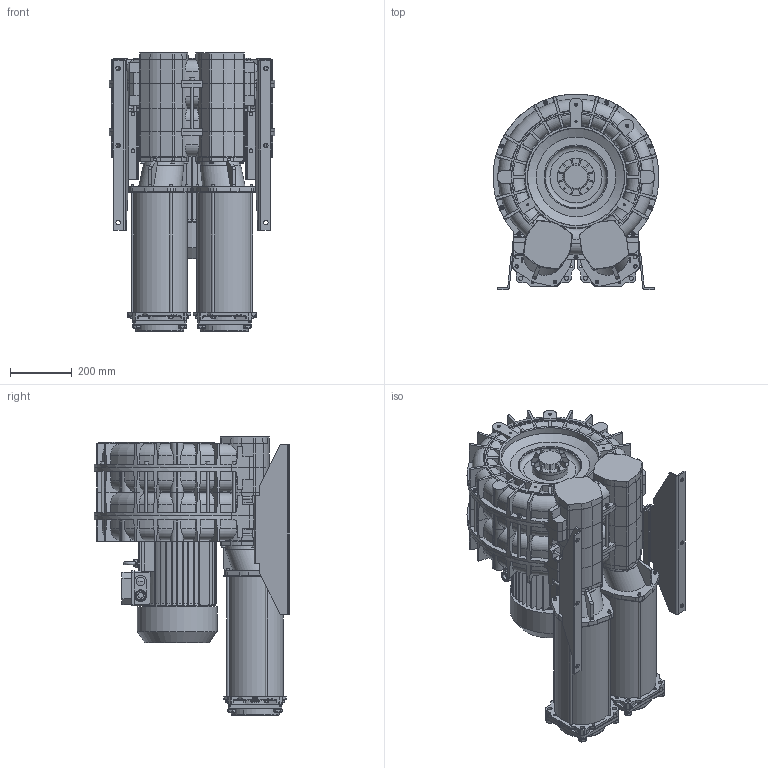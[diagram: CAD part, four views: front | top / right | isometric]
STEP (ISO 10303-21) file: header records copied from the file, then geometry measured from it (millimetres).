
FILE_DESCRIPTION (( 'STEP AP203' ), '1' );
FILE_NAME ('STP-L_e_10_TS_MOR_IE3WR_132_11.0kW-3_24-00.step', '2024-12-02T14:18:45', ( '' ), ( '' ), 'SwSTEP 2.0', 'SolidWorks 2023', '' );
FILE_SCHEMA (( 'CONFIG_CONTROL_DESIGN' ));
Length unit declared in the file: millimetre
Products named in the file (1): STP-L_e_10_TS_MOR_IE3WR_132_11.0kW-3_24-00
Bounding box: 537.57 x 633.15 x 901.5 mm (x, y, z)
Volume: 99878982.5 mm3; surface area: 5679288.5 mm2
Topology: 108 solids, 108 shells, 4330 faces, 11288 edges, 7148 vertices
Faces by surface type: plane 2042, cylinder 1095, cone 417, torus 399, bspline 336, sphere 41
Full cylindrical faces by diameter (mm): 6.8 x16, 7.5 x4, 8 x33, 8.4 x27, 8.5 x16, 8.566 x2, 8.8 x2, 9 x24, 9.728 x2, 9.98 x2, 10 x11, 11 x8, 12 x6, 12.02 x2, 13 x52, 14 x10, 16 x12, 17 x16, 18 x1, 19 x1, 20 x2, 21.4 x1, 24 x20, 25 x3, 28 x1, 115 x4, 120 x1, 128 x2, 136 x2, 149 x2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
Entity records: 152909 total; most frequent: CARTESIAN_POINT 54015, ORIENTED_EDGE 20938, DIRECTION 19546, EDGE_CURVE 10469, AXIS2_PLACEMENT_3D 7521, VERTEX_POINT 6957, EDGE_LOOP 5188, FACE_OUTER_BOUND 4700
